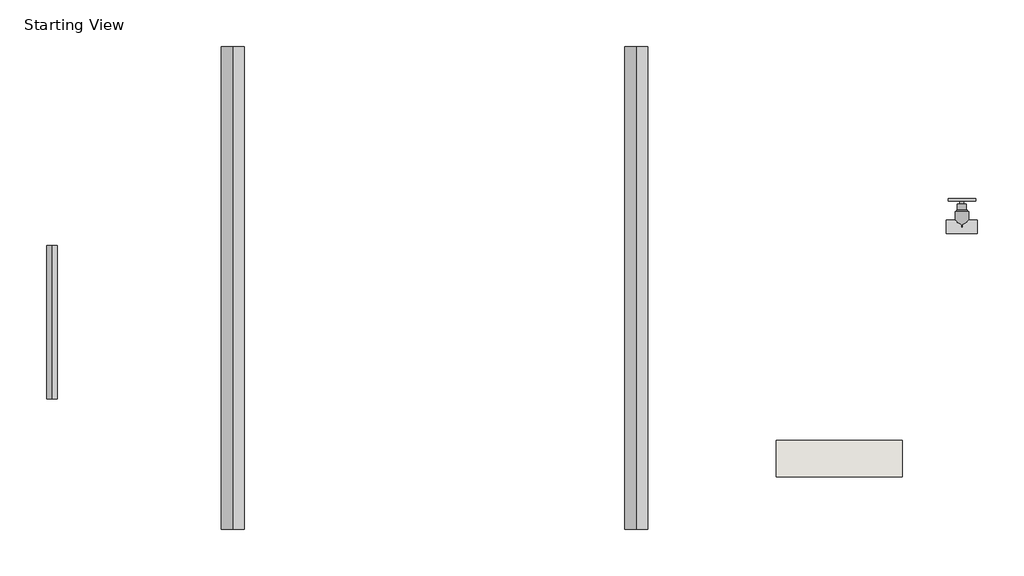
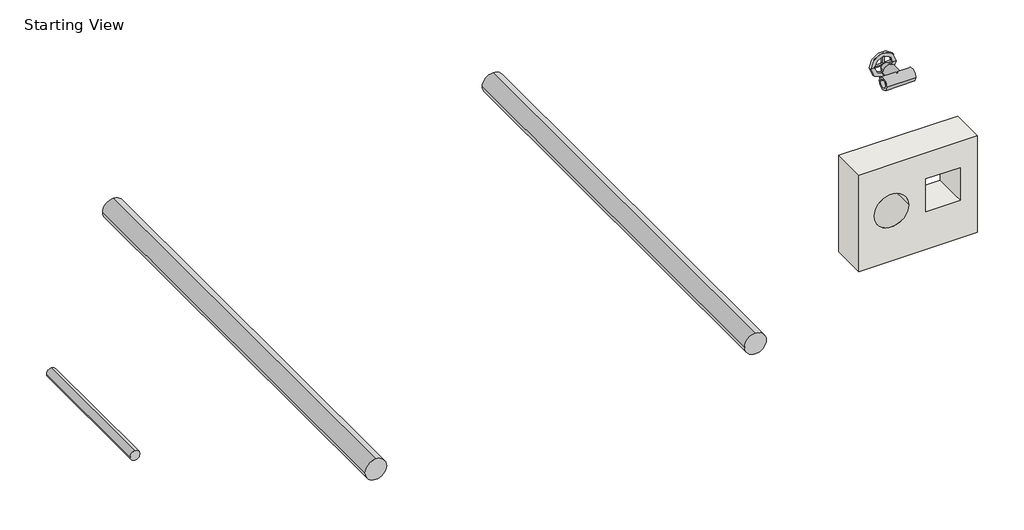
# One storey, incomplete: 3 pipe segments, 1 pipe fitting, 1 wall.
"""IFC4 building model written with IfcOpenShell, lengths in millimetres."""

from ifc_helpers import new_model, si_unit, point, frame, frame_2d, origin, place, context, project, spatial, polyline, circle_curve, trimmed, segment, composite_curve, outline, extrude, transform, mapped, element, save
from components import var_fd3edec3

model = new_model("IFC4")

# Units and contexts
model_context = context("Model", 3, world=origin())
ifc_project = project(units=[si_unit("LENGTHUNIT", "METRE", prefix="MILLI")], contexts=[model_context])

# Site, building, storey
site = spatial("IfcSite", under=ifc_project)
building = spatial("IfcBuilding", under=site)
storey = spatial("IfcBuildingStorey", under=building, Name="Starting View", Elevation=0.0)

# Pipe fitting
placement = place(None, origin())
var_shape = var_fd3edec3(model_context)
element("IfcPipeFitting", 1, ObjectType="PlastigamaWavin_Unionesdetubería_TermomaxLLavedePasoAzul20mm-63mm : Var.", at=placement, inside=storey, context=model_context, shape_type="MappedRepresentation", body=[
    mapped(var_shape, transform((5296.2351539, 2309.7531713, 0.0), x_axis=(-1.0, 0.0, 0.0), y_axis=(0.0, 0.0, 1.0), z_axis=(0.0, 1.0, 0.0))),
])

# Pipe segments
element("IfcPipeSegment", 2, ObjectType="Plastigama Termomax PPR Azul", at=placement, inside=storey, context=model_context, shape_type="SweptSolid", body=[
    extrude(outline(composite_curve([segment(trimmed(circle_curve(frame_2d((0.0, 3303.0981051)), 31.5), [point((0.0, 3271.5981051))], [point((-31.5, 3303.0981051))], False, "CARTESIAN"), True, "CONTINUOUS"), segment(trimmed(circle_curve(frame_2d((0.0, 3303.0981051)), 31.5), [point((-31.5, 3303.0981051))], [point((0.0, 3334.5981051))], False, "CARTESIAN"), True, "CONTINUOUS"), segment(trimmed(circle_curve(frame_2d((0.0, 3303.0981051)), 31.5), [point((0.0, 3334.5981051))], [point((31.5, 3303.0981051))], False, "CARTESIAN"), True, "CONTINUOUS"), segment(trimmed(circle_curve(frame_2d((0.0, 3303.0981051)), 31.5), [point((31.5, 3303.0981051))], [point((0.0, 3271.5981051))], False, "CARTESIAN"), True, "CONTINUOUS")], self_intersect=False)), frame((0.0, 1483.1102477, 0.0), z_axis=(0.0, 1.0, 0.0), x_axis=(0.0, 0.0, 1.0)), (0.0, 0.0, 1.0), 1320.0),
])
element("IfcPipeSegment", 3, ObjectType="Plastigama Termomax PPR Verde", at=placement, inside=storey, context=model_context, shape_type="SweptSolid", body=[
    extrude(outline(composite_curve([segment(trimmed(circle_curve(frame_2d((0.0, 4406.2733623)), 31.5), [point((0.0, 4374.7733623))], [point((-31.5, 4406.2733623))], False, "CARTESIAN"), True, "CONTINUOUS"), segment(trimmed(circle_curve(frame_2d((0.0, 4406.2733623)), 31.5), [point((-31.5, 4406.2733623))], [point((0.0, 4437.7733623))], False, "CARTESIAN"), True, "CONTINUOUS"), segment(trimmed(circle_curve(frame_2d((0.0, 4406.2733623)), 31.5), [point((0.0, 4437.7733623))], [point((31.5, 4406.2733623))], False, "CARTESIAN"), True, "CONTINUOUS"), segment(trimmed(circle_curve(frame_2d((0.0, 4406.2733623)), 31.5), [point((31.5, 4406.2733623))], [point((0.0, 4374.7733623))], False, "CARTESIAN"), True, "CONTINUOUS")], self_intersect=False)), frame((0.0, 1483.1102477, 0.0), z_axis=(0.0, 1.0, 0.0), x_axis=(0.0, 0.0, 1.0)), (0.0, 0.0, 1.0), 1320.0),
])
element("IfcPipeSegment", 4, ObjectType="Tubo de Transición Universal", at=placement, inside=storey, context=model_context, shape_type="SweptSolid", body=[
    extrude(outline(composite_curve([segment(trimmed(circle_curve(frame_2d((0.0, 2808.7413153)), 14.2875), [point((0.0, 2794.4538153))], [point((-14.2875, 2808.7413153))], False, "CARTESIAN"), True, "CONTINUOUS"), segment(trimmed(circle_curve(frame_2d((0.0, 2808.7413153)), 14.2875), [point((-14.2875, 2808.7413153))], [point((0.0, 2823.0288153))], False, "CARTESIAN"), True, "CONTINUOUS"), segment(trimmed(circle_curve(frame_2d((0.0, 2808.7413153)), 14.2875), [point((0.0, 2823.0288153))], [point((14.2875, 2808.7413153))], False, "CARTESIAN"), True, "CONTINUOUS"), segment(trimmed(circle_curve(frame_2d((0.0, 2808.7413153)), 14.2875), [point((14.2875, 2808.7413153))], [point((0.0, 2794.4538153))], False, "CARTESIAN"), True, "CONTINUOUS")], self_intersect=False)), frame((0.0, 1838.5139614, 0.0), z_axis=(0.0, 1.0, 0.0), x_axis=(0.0, 0.0, 1.0)), (0.0, 0.0, 1.0), 420.0),
])

# Wall
element("IfcWall", 5, ObjectType="Wall 1", at=placement, inside=storey, context=model_context, shape_type="SweptSolid", body=[
    extrude(outline(polyline([(0.0, 4788.7413153), (0.0, 5133.7413153), (296.5968372, 5133.7413153), (296.5968372, 4788.7413153), (0.0, 4788.7413153)]), holes=[composite_curve([segment(trimmed(circle_curve(frame_2d((154.4282969, 4883.7413153)), 50.0), [point((154.4282969, 4933.7413153))], [point((154.4282969, 4833.7413153))], True, "CARTESIAN"), True, "CONTINUOUS"), segment(trimmed(circle_curve(frame_2d((154.4282969, 4883.7413153)), 50.0), [point((154.4282969, 4833.7413153))], [point((154.4282969, 4933.7413153))], True, "CARTESIAN"), True, "CONTINUOUS")], self_intersect=False), polyline([(116.4896004, 5083.7413153), (116.4896004, 4983.7413153), (216.4896004, 4983.7413153), (216.4896004, 5083.7413153), (116.4896004, 5083.7413153)])]), frame((0.0, 1625.9556088, 0.0), z_axis=(0.0, 1.0, 0.0), x_axis=(0.0, 0.0, 1.0)), (0.0, 0.0, 1.0), 100.0),
])

save(model, "model.ifc")
